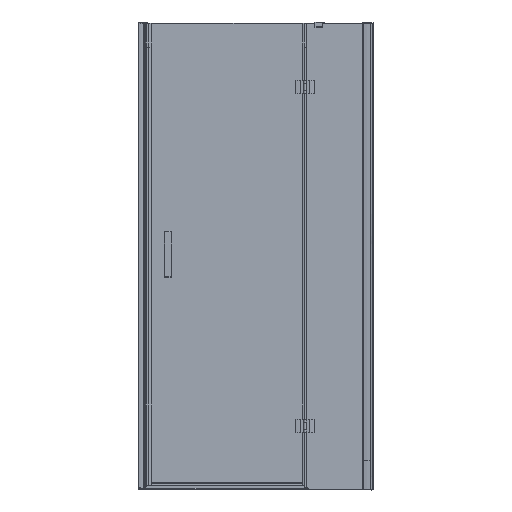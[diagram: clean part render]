
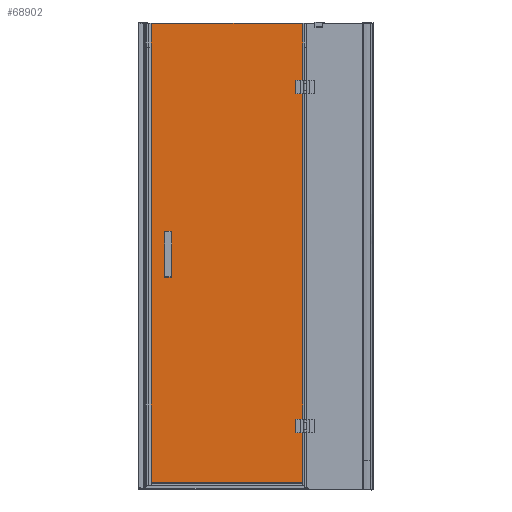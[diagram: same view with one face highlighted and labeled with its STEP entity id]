
A CAD part, front view. The second image highlights one B-rep face of the part: STEP entity #68902.
In plain terms, the highlighted planar face has unit normal (0, -1, 0).
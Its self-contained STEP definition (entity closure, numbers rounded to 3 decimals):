
#2507=FACE_BOUND('',#6489,.T.);
#2508=FACE_BOUND('',#6490,.T.);
#2649=PLANE('',#76880);
#3775=FACE_OUTER_BOUND('',#6488,.T.);
#6488=EDGE_LOOP('',(#52684,#52685,#52686,#52687));
#6489=EDGE_LOOP('',(#52688));
#6490=EDGE_LOOP('',(#52689));
#9352=LINE('',#101050,#16914);
#9353=LINE('',#101052,#16915);
#9354=LINE('',#101054,#16916);
#9355=LINE('',#101055,#16917);
#16914=VECTOR('',#82434,10.);
#16915=VECTOR('',#82435,10.);
#16916=VECTOR('',#82436,10.);
#16917=VECTOR('',#82437,10.);
#24458=CIRCLE('',#76881,4.);
#24459=CIRCLE('',#76882,4.);
#27689=VERTEX_POINT('',#101048);
#27690=VERTEX_POINT('',#101049);
#27691=VERTEX_POINT('',#101051);
#27692=VERTEX_POINT('',#101053);
#27693=VERTEX_POINT('',#101056);
#27694=VERTEX_POINT('',#101058);
#40139=EDGE_CURVE('',#27689,#27690,#9352,.T.);
#40140=EDGE_CURVE('',#27690,#27691,#9353,.T.);
#40141=EDGE_CURVE('',#27691,#27692,#9354,.T.);
#40142=EDGE_CURVE('',#27692,#27689,#9355,.T.);
#40143=EDGE_CURVE('',#27693,#27693,#24458,.T.);
#40144=EDGE_CURVE('',#27694,#27694,#24459,.T.);
#52684=ORIENTED_EDGE('',*,*,#40139,.T.);
#52685=ORIENTED_EDGE('',*,*,#40140,.T.);
#52686=ORIENTED_EDGE('',*,*,#40141,.T.);
#52687=ORIENTED_EDGE('',*,*,#40142,.T.);
#52688=ORIENTED_EDGE('',*,*,#40143,.T.);
#52689=ORIENTED_EDGE('',*,*,#40144,.T.);
#68902=ADVANCED_FACE('',(#3775,#2507,#2508),#2649,.T.);
#76880=AXIS2_PLACEMENT_3D('',#101047,#82432,#82433);
#76881=AXIS2_PLACEMENT_3D('',#101057,#82438,#82439);
#76882=AXIS2_PLACEMENT_3D('',#101059,#82440,#82441);
#82432=DIRECTION('center_axis',(0.,-1.,0.));
#82433=DIRECTION('ref_axis',(0.,0.,-1.));
#82434=DIRECTION('',(0.,0.,-1.));
#82435=DIRECTION('',(1.,0.,0.));
#82436=DIRECTION('',(0.,0.,1.));
#82437=DIRECTION('',(-1.,0.,0.));
#82438=DIRECTION('center_axis',(0.,1.,0.));
#82439=DIRECTION('ref_axis',(1.,0.,0.));
#82440=DIRECTION('center_axis',(0.,1.,0.));
#82441=DIRECTION('ref_axis',(1.,0.,0.));
#101047=CARTESIAN_POINT('Origin',(-694.,-841.2,-1882.));
#101048=CARTESIAN_POINT('',(-1019.,-841.2,50.));
#101049=CARTESIAN_POINT('',(-1019.,-841.2,-1882.));
#101050=CARTESIAN_POINT('',(-1019.,-841.2,50.));
#101051=CARTESIAN_POINT('',(-369.,-841.2,-1882.));
#101052=CARTESIAN_POINT('',(-1019.,-841.2,-1882.));
#101053=CARTESIAN_POINT('',(-369.,-841.2,50.));
#101054=CARTESIAN_POINT('',(-369.,-841.2,-1882.));
#101055=CARTESIAN_POINT('',(-369.,-841.2,50.));
#101056=CARTESIAN_POINT('',(-935.,-841.2,-852.));
#101057=CARTESIAN_POINT('Origin',(-939.,-841.2,-852.));
#101058=CARTESIAN_POINT('',(-935.,-841.2,-980.));
#101059=CARTESIAN_POINT('Origin',(-939.,-841.2,-980.));
